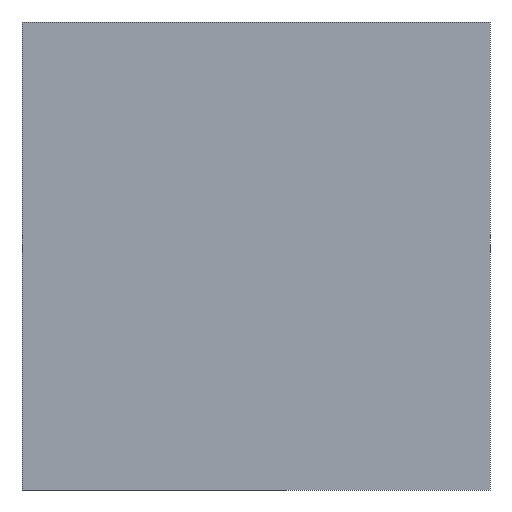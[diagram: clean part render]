
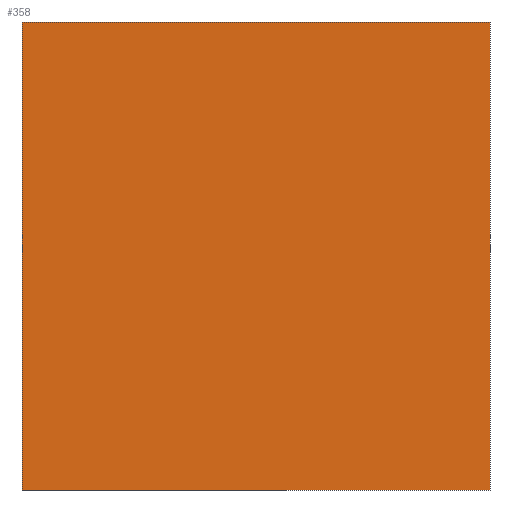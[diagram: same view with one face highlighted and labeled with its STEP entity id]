
A CAD part, left-side view. The second image highlights one B-rep face of the part: STEP entity #358.
In plain terms, the highlighted planar face has unit normal (-1, 0, 0).
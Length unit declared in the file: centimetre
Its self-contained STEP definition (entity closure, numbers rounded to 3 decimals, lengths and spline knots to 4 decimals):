
#2 = EDGE_CURVE ( 'NONE', #23, #157, #161, .T. ) ;
#17 = ORIENTED_EDGE ( 'NONE', *, *, #241, .T. ) ;
#23 = VERTEX_POINT ( 'NONE', #32 ) ;
#31 = DIRECTION ( 'NONE',  ( 0., -1., 0. ) ) ;
#32 = CARTESIAN_POINT ( 'NONE',  ( 0., 1000., 1000. ) ) ;
#35 = DIRECTION ( 'NONE',  ( 0., -1., 0. ) ) ;
#44 = FACE_OUTER_BOUND ( 'NONE', #278, .T. ) ;
#46 = VERTEX_POINT ( 'NONE', #292 ) ;
#59 = ORIENTED_EDGE ( 'NONE', *, *, #259, .F. ) ;
#67 = CARTESIAN_POINT ( 'NONE',  ( 0., 0., 1000. ) ) ;
#81 = DIRECTION ( 'NONE',  ( 1., 0., 0. ) ) ;
#88 = LINE ( 'NONE', #352, #309 ) ;
#89 = VERTEX_POINT ( 'NONE', #262 ) ;
#92 = DIRECTION ( 'NONE',  ( 0., 0., -1. ) ) ;
#105 = LINE ( 'NONE', #110, #146 ) ;
#110 = CARTESIAN_POINT ( 'NONE',  ( 0., 1000., 1000. ) ) ;
#122 = ORIENTED_EDGE ( 'NONE', *, *, #2, .F. ) ;
#146 = VECTOR ( 'NONE', #229, 100. ) ;
#153 = AXIS2_PLACEMENT_3D ( 'NONE', #345, #81, #306 ) ;
#157 = VERTEX_POINT ( 'NONE', #67 ) ;
#161 = LINE ( 'NONE', #189, #232 ) ;
#180 = LINE ( 'NONE', #250, #186 ) ;
#183 = ORIENTED_EDGE ( 'NONE', *, *, #384, .T. ) ;
#186 = VECTOR ( 'NONE', #92, 100. ) ;
#189 = CARTESIAN_POINT ( 'NONE',  ( 0., 1000., 1000. ) ) ;
#229 = DIRECTION ( 'NONE',  ( 0., 0., -1. ) ) ;
#232 = VECTOR ( 'NONE', #35, 100. ) ;
#241 = EDGE_CURVE ( 'NONE', #46, #89, #88, .T. ) ;
#250 = CARTESIAN_POINT ( 'NONE',  ( 0., 0., 1000. ) ) ;
#259 = EDGE_CURVE ( 'NONE', #157, #89, #180, .T. ) ;
#262 = CARTESIAN_POINT ( 'NONE',  ( 0., 0., 0. ) ) ;
#278 = EDGE_LOOP ( 'NONE', ( #17, #59, #122, #183 ) ) ;
#292 = CARTESIAN_POINT ( 'NONE',  ( 0., 1000., 0. ) ) ;
#306 = DIRECTION ( 'NONE',  ( 0., 0., -1. ) ) ;
#309 = VECTOR ( 'NONE', #31, 100. ) ;
#345 = CARTESIAN_POINT ( 'NONE',  ( 0., 1000., 1000. ) ) ;
#352 = CARTESIAN_POINT ( 'NONE',  ( 0., 1000., 0. ) ) ;
#358 = ADVANCED_FACE ( 'NONE', ( #44 ), #406, .F. ) ;
#384 = EDGE_CURVE ( 'NONE', #23, #46, #105, .T. ) ;
#406 = PLANE ( 'NONE',  #153 ) ;
